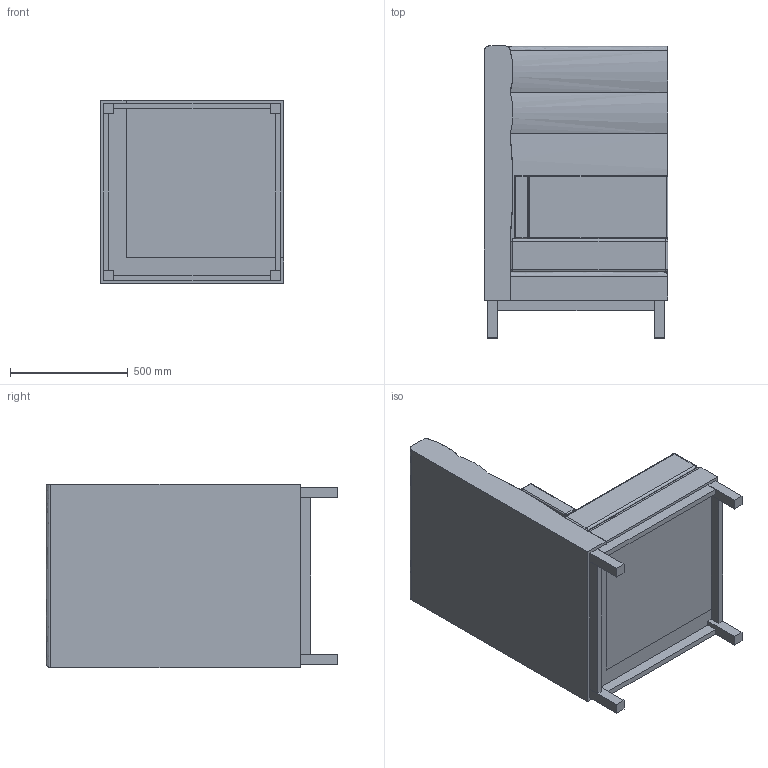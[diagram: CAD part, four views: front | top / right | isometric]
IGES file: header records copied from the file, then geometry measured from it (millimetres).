
Start section: SolidWorks IGES file using analytic representation for surfaces
Global section: file name: P:\3D CAD BLOCKS\ARTHUR CITYSCAPE\HB Bumped Corner\IGS\ART-HB-BUMP-ART-CITY-CORNER.IGS; native system: SolidWorks 2012; preprocessor: SolidWorks 2012; author: tom; date: 160523.091056; units: millimetre
Bounding box: 780 x 1240 x 780 mm (x, y, z)
Surface area: 7501440.9 mm2 (no closed solid volume)
Topology: 0 solids, 0 shells, 152 faces, 794 edges, 788 vertices
Faces by surface type: bspline 80, revolution 72
